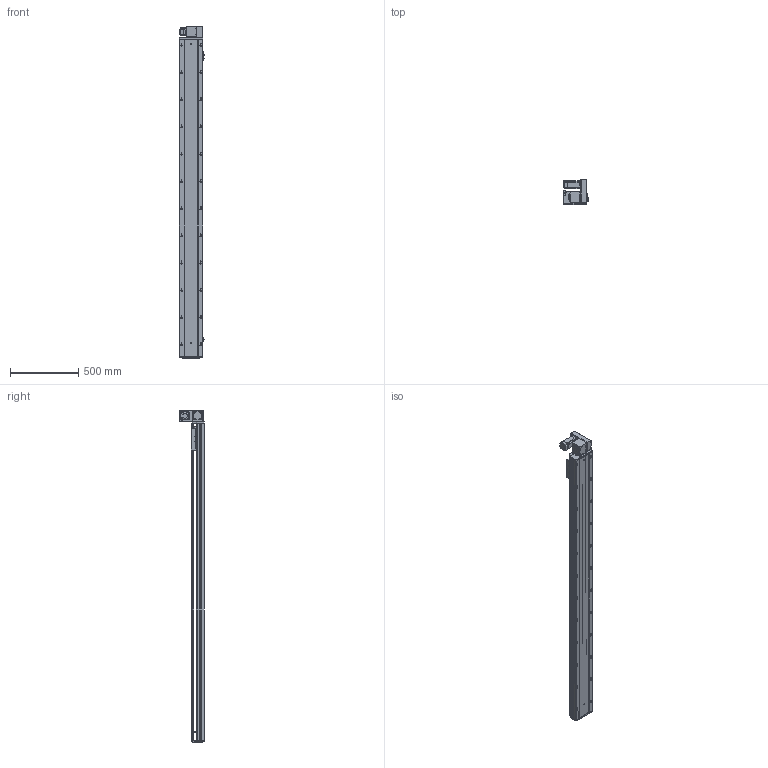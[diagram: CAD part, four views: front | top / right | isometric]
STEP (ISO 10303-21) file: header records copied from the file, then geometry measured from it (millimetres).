
FILE_DESCRIPTION (( 'STEP AP203' ), '1' );
FILE_NAME ('RY170-T-300-UR-P400W.SLDASM_2050.step', '2021-03-01T09:29:09', ( '盈信电脑' ), ( '东莞市道滘镇水果街19号' ), 'SwSTEP 2.0', 'SolidWorks 2012', '' );
FILE_SCHEMA (( 'CONFIG_CONTROL_DESIGN' ));
Length unit declared in the file: millimetre
Products named in the file (18): 15; 滅袉蝶18-10; RY170-T-300-UR-P400W.SLDASM_2050; RY170-T蹟翐M4; RY170-T肮祭湍揤踡輸2; RY170-T肮祭謫裔啣; RY120-T主同步轮轴承压盖; RY170-T肮祭湍揤踡輸1; RY170同步轮电机安装板(400W); RY170肮祭謫萇儂欶; RY170外置感应片(200共用）; 覜茼ん672; RY170肮祭謫ヶ裔啣; RY170翋肮祭謫釱; RY170綴裔啣; RY170-T-300肮祭謫倰第裔啣-DR_2050; RY170肮祭湍臏賑輸; RY170-T-300肮祭謫倰第菁釱-DR_2050
Assembly tree (22 placements, depth 2):
  RY170-T-300-UR-P400W.SLDASM_2050
    RY170-T-300肮祭謫倰第菁釱-DR_2050
    RY170肮祭湍臏賑輸
    RY170-T-300肮祭謫倰第裔啣-DR_2050
    RY170綴裔啣
    覜茼ん672  x3
    RY170外置感应片(200共用）
    RY170肮祭謫ヶ裔啣
    RY170翋肮祭謫釱
    RY170同步轮电机安装板(400W)
    RY170肮祭謫萇儂欶
    RY170-T肮祭湍揤踡輸1  x2
    RY170-T肮祭湍揤踡輸2  x2
    RY120-T主同步轮轴承压盖
    RY170-T肮祭謫裔啣
    RY170-T蹟翐M4
    滅袉蝶18-10  x2
    15
Bounding box: 183.7 x 182 x 2438 mm (x, y, z)
Volume: 11295152.6 mm3; surface area: 3894326.6 mm2
Topology: 22 solids, 22 shells, 3020 faces, 8474 edges, 5401 vertices
Faces by surface type: cylinder 1412, plane 1270, cone 308, bspline 30
Entity records: 92008 total; most frequent: CARTESIAN_POINT 21379, ORIENTED_EDGE 14512, DIRECTION 14128, EDGE_CURVE 7256, AXIS2_PLACEMENT_3D 5020, VERTEX_POINT 4757, LINE 4088, VECTOR 4088
